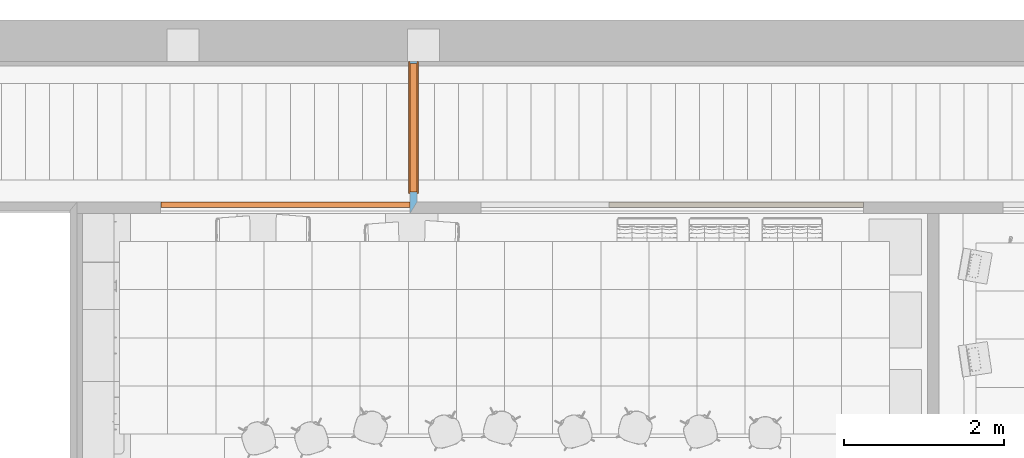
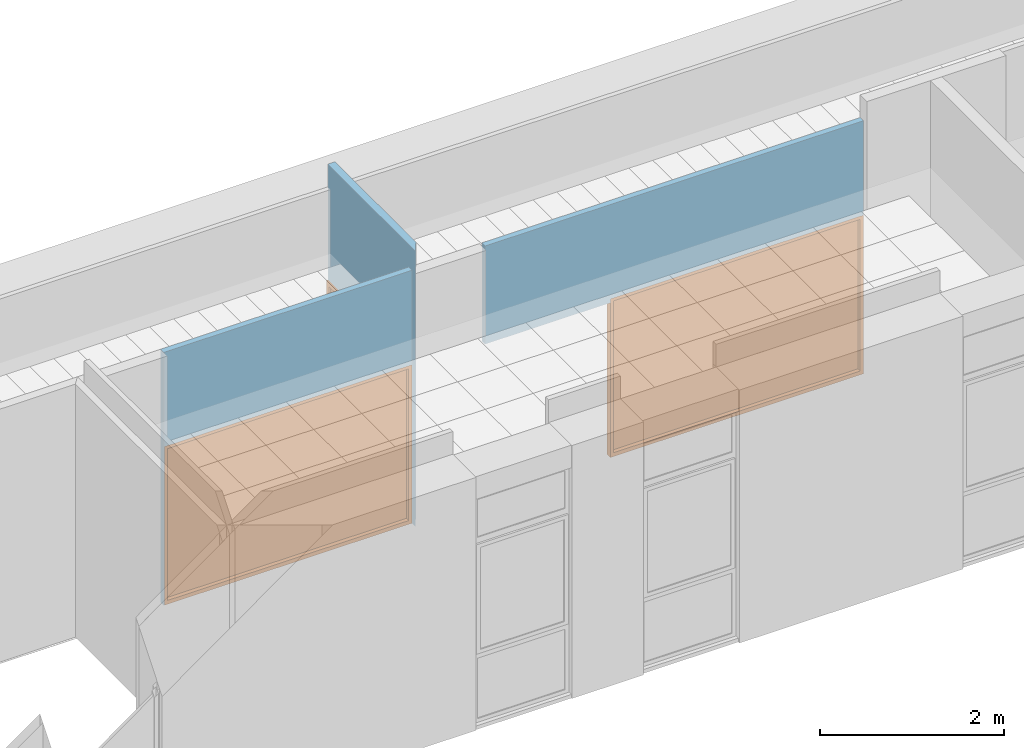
# One storey, part 49 of 60: 3 proxies, 4 openings, plus 3 elements that do not belong to this part.
"""IFC2X3 building model written with IfcOpenShell, lengths in millimetres."""

import ifcopenshell
import ifcopenshell.guid

model = None  # the IFC model being written
_history = None  # IfcOwnerHistory: only IFC2X3 demands one
_inside = {}  # id of a spatial element -> (the spatial element, [elements in it])
_under = {}  # id of a project, library or spatial element -> (it, [spatial elements below it])
_declared = {}  # id of a project -> (the project, [libraries it declares])
_typed = {}  # id of a type object -> (the type object, [elements of that type])
_made_of = {}  # id of a material, layer set ... -> (it, [elements and type objects made of it])


def new_model(schema):
    """Start an empty IFC model of exactly this schema.

    Asked for "IFC4X3", IfcOpenShell would pick the latest addendum, in which some entities
    have other attributes; the version numbers below select the first issue.
    IFC2X3 requires an IfcOwnerHistory on every rooted entity: one is made here for all.
    """
    global model, _history
    if schema == "IFC4X3":
        model = ifcopenshell.file(schema_version=(4, 3, 0, 0))
    else:
        model = ifcopenshell.file(schema=schema)
    _inside.clear()
    _under.clear()
    _declared.clear()
    _typed.clear()
    _made_of.clear()
    _history = None
    if model.schema == "IFC2X3":
        org = make("IfcOrganization", Name="unknown")
        user = make(
            "IfcPersonAndOrganization",
            ThePerson=make("IfcPerson", FamilyName="unknown"),
            TheOrganization=org,
        )
        app = make(
            "IfcApplication",
            ApplicationDeveloper=org,
            Version="unknown",
            ApplicationFullName="unknown",
            ApplicationIdentifier="unknown",
        )
        _history = make(
            "IfcOwnerHistory",
            OwningUser=user,
            OwningApplication=app,
            ChangeAction="ADDED",
            CreationDate=0,
        )
    return model


def make(cls, **values):
    """One entity of the class cls with the attributes given. An attribute that is None is left unset."""
    return model.create_entity(
        cls, **{name: value for name, value in values.items() if value is not None}
    )


def entity(cls, *values):
    """Any entity or typed value of the class cls, its attributes in the order of the schema. None: left unset."""
    e = model.create_entity(cls)
    for i, value in enumerate(values):
        if value is not None:
            e[i] = value
    return e


def rooted(cls, **values):
    """An entity with a GlobalId (a new one), such as an element, a storey or a relation."""
    return make(cls, GlobalId=ifcopenshell.guid.new(), OwnerHistory=_history, **values)


def si_unit(unit_type, name, prefix=None):
    """IfcSIUnit, for example si_unit("LENGTHUNIT", "METRE", prefix="MILLI")."""
    return make("IfcSIUnit", UnitType=unit_type, Prefix=prefix, Name=name)


def converted_unit(unit_type, name, factor, base, dimensions=None, offset=None):
    """IfcConversionBasedUnit, such as the inch: factor (a typed value) times the base unit."""
    return make(
        "IfcConversionBasedUnit"
        if offset is None
        else "IfcConversionBasedUnitWithOffset",
        ConversionOffset=offset,
        Dimensions=None
        if dimensions is None
        else entity("IfcDimensionalExponents", *dimensions),
        UnitType=unit_type,
        Name=name,
        ConversionFactor=make(
            "IfcMeasureWithUnit", ValueComponent=factor, UnitComponent=base
        ),
    )


def derived_unit(unit_type, elements):
    """IfcDerivedUnit: a product of units, each with its exponent."""
    return make(
        "IfcDerivedUnit",
        Elements=[
            make("IfcDerivedUnitElement", Unit=unit, Exponent=power)
            for unit, power in elements
        ],
        UnitType=unit_type,
    )


def money_unit(currency):
    """IfcMonetaryUnit."""
    return make("IfcMonetaryUnit", Currency=currency)


def assignment(units):
    """IfcUnitAssignment: the units of a project."""
    return None if units is None else make("IfcUnitAssignment", Units=units)


def point(xyz):
    """IfcCartesianPoint."""
    return None if xyz is None else make("IfcCartesianPoint", Coordinates=xyz)


def direction(xyz):
    """IfcDirection."""
    return None if xyz is None else make("IfcDirection", DirectionRatios=xyz)


def frame(location, z_axis=None, x_axis=None):
    """IfcAxis2Placement3D, a coordinate frame: its origin and axes. An axis left out is left unset."""
    return make(
        "IfcAxis2Placement3D",
        Location=point(location),
        Axis=direction(z_axis),
        RefDirection=direction(x_axis),
    )


def frame_2d(location, x_axis=None):
    """IfcAxis2Placement2D, a coordinate frame in the plane: its origin and x axis."""
    return make(
        "IfcAxis2Placement2D", Location=point(location), RefDirection=direction(x_axis)
    )


def origin_with_axes():
    """The frame at (0, 0, 0) with the z axis (0, 0, 1) and the x axis (1, 0, 0) written out."""
    return frame((0.0, 0.0, 0.0), z_axis=(0.0, 0.0, 1.0), x_axis=(1.0, 0.0, 0.0))


def origin_2d_with_axis():
    """The frame at (0, 0) in the plane with the x axis (1, 0) written out."""
    return frame_2d((0.0, 0.0), x_axis=(1.0, 0.0))


def place(relative_to, where):
    """IfcLocalPlacement: puts the frame where relative to a parent placement (None: the world)."""
    return make(
        "IfcLocalPlacement", PlacementRelTo=relative_to, RelativePlacement=where
    )


def context(
    kind, dimensions, precision=None, world=None, true_north=None, identifier=None
):
    """IfcGeometricRepresentationContext, for example the 3D "Model" context."""
    return make(
        "IfcGeometricRepresentationContext",
        ContextIdentifier=identifier,
        ContextType=kind,
        CoordinateSpaceDimension=dimensions,
        Precision=precision,
        WorldCoordinateSystem=world,
        TrueNorth=true_north,
    )


def subcontext(parent, identifier, kind, view, scale=None):
    """IfcGeometricRepresentationSubContext, for example "Body" below "Model"."""
    return make(
        "IfcGeometricRepresentationSubContext",
        ContextIdentifier=identifier,
        ContextType=kind,
        ParentContext=parent,
        TargetScale=scale,
        TargetView=view,
    )


def project(units=None, contexts=None):
    """IfcProject with its units and contexts."""
    return rooted(
        "IfcProject",
        Name="project",
        RepresentationContexts=contexts,
        UnitsInContext=assignment(units),
    )


def spatial(cls, under=None, at=None, **own):
    """A site, building, storey or space (cls), placed at a placement, below another one or the project."""
    s = rooted(cls, ObjectPlacement=at, **own)
    if under is not None:
        _under.setdefault(under.id(), (under, []))[1].append(s)
    return s


def polyline(points):
    """IfcPolyline through the points."""
    return make("IfcPolyline", Points=[point(p) for p in points])


def profile(cls, at=None, kind="AREA", **sizes):
    """A parametric profile (cls). Its sizes go by their IFC names, for example OverallWidth=200.0."""
    return make(cls, ProfileType=kind, Position=at, **sizes)


def rectangle(**sizes):
    """IfcRectangleProfileDef."""
    return profile("IfcRectangleProfileDef", **sizes)


def outline(outer, holes=None, kind="AREA"):
    """IfcArbitraryClosedProfileDef: a profile drawn as a closed curve; with holes, ...WithVoids."""
    if holes is None:
        return make("IfcArbitraryClosedProfileDef", ProfileType=kind, OuterCurve=outer)
    return make(
        "IfcArbitraryProfileDefWithVoids",
        ProfileType=kind,
        OuterCurve=outer,
        InnerCurves=holes,
    )


def extrude(swept, where, along, depth):
    """IfcExtrudedAreaSolid: the profile swept, set in the frame where, extruded along a direction by depth."""
    return make(
        "IfcExtrudedAreaSolid",
        SweptArea=swept,
        Position=where,
        ExtrudedDirection=direction(along),
        Depth=depth,
    )


def faces_of(points, faces, orient=None, outer=None):
    """IfcFace entities. A face is a list of loops; a loop is a list of indices into points, from 0.

    orient and outer hold one flag for each loop. By default every Orientation is true, the
    first loop of a face is its IfcFaceOuterBound and the others are IfcFaceBound.
    """
    made = []
    for i, loops in enumerate(faces):
        bounds = []
        for j, loop in enumerate(loops):
            is_outer = j == 0 if outer is None else outer[i][j]
            bounds.append(
                make(
                    "IfcFaceOuterBound" if is_outer else "IfcFaceBound",
                    Bound=make("IfcPolyLoop", Polygon=[points[k] for k in loop]),
                    Orientation=True if orient is None else orient[i][j],
                )
            )
        made.append(make("IfcFace", Bounds=bounds))
    return made


def faceted_brep(points, faces, orient=None, outer=None, voids=None):
    """IfcFacetedBrep: a solid bounded by flat faces; with voids (closed shells), ...WithVoids."""
    shared = [point(p) for p in points]
    hull = make("IfcClosedShell", CfsFaces=faces_of(shared, faces, orient, outer))
    if voids is None:
        return make("IfcFacetedBrep", Outer=hull)
    return make(
        "IfcFacetedBrepWithVoids",
        Outer=hull,
        Voids=[
            make(cls, CfsFaces=faces_of(shared, fs, o, b)) for cls, fs, o, b in voids
        ],
    )


def shape(context_of_items, identifier, shape_type, items):
    """IfcShapeRepresentation: the items that make up one representation, for example the "Body"."""
    return make(
        "IfcShapeRepresentation",
        ContextOfItems=context_of_items,
        RepresentationIdentifier=identifier,
        RepresentationType=shape_type,
        Items=items,
    )


def material(Name=None, Category=None):
    """IfcMaterial."""
    return make("IfcMaterial", Name=Name, Category=Category)


def layer(
    of_material, thickness, ventilated=None, Name=None, Category=None, Priority=None
):
    """IfcMaterialLayer: one layer of a wall or slab, of a material (None: an air gap)."""
    return make(
        "IfcMaterialLayer",
        Material=of_material,
        LayerThickness=thickness,
        IsVentilated=ventilated,
        Name=Name,
        Category=Category,
        Priority=Priority,
    )


def layer_set(layers, Name=None):
    """IfcMaterialLayerSet."""
    return make("IfcMaterialLayerSet", MaterialLayers=layers, LayerSetName=Name)


def layer_usage(for_layer_set, set_direction, sense, offset, extent=None):
    """IfcMaterialLayerSetUsage: how a layer set lies in its element."""
    return make(
        "IfcMaterialLayerSetUsage",
        ForLayerSet=for_layer_set,
        LayerSetDirection=set_direction,
        DirectionSense=sense,
        OffsetFromReferenceLine=offset,
        ReferenceExtent=extent,
    )


def made_of(thing, what):
    """Note that an element or type object is made of a material, layer set ...; save() writes the relation."""
    if what is not None:
        _made_of.setdefault(what.id(), (what, []))[1].append(thing)
    return thing


def type_object(cls, material=None, **own):
    """A type object (cls), such as IfcWallType, which elements share."""
    return made_of(rooted(cls, **own), material)


def element(
    cls,
    number,
    at=None,
    inside=None,
    cuts=None,
    type_object=None,
    material=None,
    context=None,
    identifier="Body",
    shape_type=None,
    held_by="IfcProductDefinitionShape",
    body=None,
    shapes=None,
    **own,
):
    """One element of the class cls, such as IfcWall. Its Tag is "e" and its number.

    at: its placement. inside: the storey or other place that contains it. cuts: it is an
    opening in that element (IfcRelVoidsElement). A single representation is given by context,
    identifier, shape_type and body (its items); several are given by shapes. held_by: the class
    of the entity that holds the representations. save() writes the other relations.
    """
    e = rooted(cls, Tag="e%d" % number, ObjectPlacement=at, **own)
    if body is not None:
        shapes = [shape(context, identifier, shape_type, body)]
    if shapes is not None:
        e.Representation = make(held_by, Representations=shapes)
    if inside is not None:
        _inside.setdefault(inside.id(), (inside, []))[1].append(e)
    if cuts is not None:
        rooted(
            "IfcRelVoidsElement", RelatingBuildingElement=cuts, RelatedOpeningElement=e
        )
    if type_object is not None:
        _typed.setdefault(type_object.id(), (type_object, []))[1].append(e)
    return made_of(e, material)


def fill(opening, filler):
    """IfcRelFillsElement: the door or window that sits in an opening."""
    return rooted(
        "IfcRelFillsElement",
        RelatingOpeningElement=opening,
        RelatedBuildingElement=filler,
    )


def aggregate(whole, parts):
    """IfcRelAggregates: a whole, such as a stair, and the parts it consists of."""
    return rooted("IfcRelAggregates", RelatingObject=whole, RelatedObjects=parts)


def save(model, path):
    """Write the relations noted so far, then the file.

    IfcRelAggregates (storeys below a building ...), IfcRelContainedInSpatialStructure (elements
    in a storey), IfcRelDefinesByType, IfcRelAssociatesMaterial and IfcRelDeclares: one each for
    every whole, place, type object, material and project.
    """
    for whole, parts in _under.values():
        aggregate(whole, parts)
    for where, things in _inside.values():
        rooted(
            "IfcRelContainedInSpatialStructure",
            RelatedElements=things,
            RelatingStructure=where,
        )
    for kind, things in _typed.values():
        rooted("IfcRelDefinesByType", RelatedObjects=things, RelatingType=kind)
    for what, things in _made_of.values():
        rooted("IfcRelAssociatesMaterial", RelatedObjects=things, RelatingMaterial=what)
    for by, libraries in _declared.values():
        rooted("IfcRelDeclares", RelatingContext=by, RelatedDefinitions=libraries)
    model.write(path)


model = new_model("IFC2X3")

# Units and contexts
model_context = context("Model", 3, precision=0.01, world=origin_with_axes(), true_north=direction((0.0, 1.0)))
body_context = subcontext(model_context, "Body", "Model", "MODEL_VIEW")
ifc_project = project(units=[si_unit("LENGTHUNIT", "METRE", prefix="MILLI"), si_unit("AREAUNIT", "SQUARE_METRE"), si_unit("VOLUMEUNIT", "CUBIC_METRE"), converted_unit("PLANEANGLEUNIT", "DEGREE", entity("IfcPlaneAngleMeasure", 0.0174532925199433), si_unit("PLANEANGLEUNIT", "RADIAN"), dimensions=[0, 0, 0, 0, 0, 0, 0]), money_unit("USD"), converted_unit("TIMEUNIT", "Year", entity("IfcTimeMeasure", 31557600.0), si_unit("TIMEUNIT", "SECOND"), dimensions=[0, 0, 1, 0, 0, 0, 0]), si_unit("MASSUNIT", "GRAM", prefix="KILO"), si_unit("THERMODYNAMICTEMPERATUREUNIT", "DEGREE_CELSIUS"), si_unit("LUMINOUSINTENSITYUNIT", "LUMEN"), si_unit("ENERGYUNIT", "JOULE", prefix="MEGA"), derived_unit("THERMALCONDUCTANCEUNIT", [(si_unit("POWERUNIT", "WATT"), 1), (si_unit("LENGTHUNIT", "METRE"), -1), (si_unit("THERMODYNAMICTEMPERATUREUNIT", "KELVIN"), -1)]), derived_unit("SPECIFICHEATCAPACITYUNIT", [(si_unit("ENERGYUNIT", "JOULE"), 1), (si_unit("MASSUNIT", "GRAM", prefix="KILO"), -1), (si_unit("THERMODYNAMICTEMPERATUREUNIT", "KELVIN"), -1)]), derived_unit("MASSDENSITYUNIT", [(si_unit("MASSUNIT", "GRAM", prefix="KILO"), 1), (si_unit("VOLUMEUNIT", "CUBIC_METRE"), -1)])], contexts=[model_context])

# Site, building, storey
site_placement = place(None, origin_with_axes())
site = spatial("IfcSite", under=ifc_project, at=site_placement, Name="Sitio", CompositionType="ELEMENT")
building_placement = place(site_placement, origin_with_axes())
building = spatial("IfcBuilding", under=site, at=building_placement, Name="Construcción", CompositionType="ELEMENT")
storey_placement = place(building_placement, frame((0.0, 0.0, 3650.0), z_axis=(0.0, 0.0, 1.0), x_axis=(1.0, 0.0, 0.0)))
storey = spatial("IfcBuildingStorey", under=building, at=storey_placement, Name="PLANTA 2ª", CompositionType="ELEMENT", Elevation=3650.0)

# Wall, openings, proxy
ifc_material_1 = material(Name="Panel de Yeso Laminado")
ifc_layer_1 = layer(ifc_material_1, 5.0, ventilated="UNKNOWN")
ifc_material_2 = material(Name="ARQ_AI033_Aillament_Llana_De_Roca")
ifc_layer_2 = layer(ifc_material_2, 60.0, ventilated="UNKNOWN")
ifc_layer_3 = layer(ifc_material_1, 5.0, ventilated="UNKNOWN")
ifc_layer_set_1 = layer_set([ifc_layer_1, ifc_layer_2, ifc_layer_3], Name="CR- MAMPARA")
ifc_layer_usage_1 = layer_usage(ifc_layer_set_1, "AXIS2", "POSITIVE", 0.0)
wall_type_1 = type_object("IfcWallType", Name="CR- MAMPARA 70", PredefinedType="NOTDEFINED")
wall_1_placement = place(storey_placement, frame((-13225.05292641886, 2109.554870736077, 0.0), z_axis=(0.0, 0.0, 1.0), x_axis=(-1.0, 0.0, 0.0)))
wall_1 = element("IfcWallStandardCase", 1, at=wall_1_placement, inside=storey, type_object=wall_type_1, material=ifc_layer_usage_1, Name="MS-214", context=body_context, shape_type="SweptSolid", body=[
    extrude(outline(polyline([(0.0, 0.0), (4737.123026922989, 0.0), (4737.123026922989, 69.99999999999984), (0.0, 69.99999999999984), (0.0, 0.0)])), origin_with_axes(), (0.0, 0.0, 1.0), 3350.0),
])
opening_1_placement = place(wall_1_placement, frame((1584.988959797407, 0.0, 0.0), z_axis=(0.0, 0.0, 1.0), x_axis=(1.0, 0.0, 0.0)))
opening_1 = element("IfcOpeningElement", 2, at=opening_1_placement, cuts=wall_1, Name="M-13", context=body_context, shape_type="SweptSolid", body=[
    extrude(rectangle(XDim=3169.977919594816, YDim=2100.0, at=origin_2d_with_axis()), frame((0.0, -69.99999999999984, 1050.0), z_axis=(0.0, 1.0, 0.0), x_axis=(-1.0, 0.0, 0.0)), (0.0, 0.0, 1.0), 210.0),
])
opening_2_placement = place(wall_1_placement, frame((3969.977919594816, 0.0, 0.0), z_axis=(0.0, 0.0, 1.0), x_axis=(1.0, 0.0, 0.0)))
element("IfcOpeningElement", 3, at=opening_2_placement, cuts=wall_1, Name="PM-4", context=body_context, shape_type="SweptSolid", body=[
    extrude(rectangle(XDim=1600.000000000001, YDim=2050.0, at=origin_2d_with_axis()), frame((0.0, -69.99999999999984, 1025.0), z_axis=(0.0, 1.0, 0.0), x_axis=(1.0, 0.0, 0.0)), (0.0, 0.0, 1.0), 210.0),
])
building_element_proxy_type_1 = type_object("IfcBuildingElementProxyType", Name="Ventana Escaparate 27", PredefinedType="NOTDEFINED")
proxy_1_placement = place(opening_1_placement, frame((1584.988959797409, 0.0, 0.0), z_axis=(0.0, 0.0, 1.0), x_axis=(-1.0, 0.0, 0.0)))
proxy_1 = element("IfcBuildingElementProxy", 4, at=proxy_1_placement, inside=storey, type_object=building_element_proxy_type_1, Name="M-13", context=body_context, shape_type="Brep", body=[
    faceted_brep([(0.0, 0.0, 2060.0), (0.0, 0.0, 49.99999999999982), (0.0, -69.9999999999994, 49.99999999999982), (0.0, -69.99999999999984, 2060.0), (40.0000000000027, 0.0, 2060.0), (40.0000000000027, 0.0, 49.99999999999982), (40.0000000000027, -69.99999999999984, 49.99999999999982), (40.0000000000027, -69.99999999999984, 2060.0)], [[[0, 1, 2, 3]], [[0, 4, 5, 1]], [[1, 5, 6, 2]], [[3, 2, 6, 7]], [[4, 0, 3, 7]], [[5, 4, 7, 6]]]),
    faceted_brep([(3169.977919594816, 0.0, 49.99999999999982), (3169.977919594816, 0.0, 2060.0), (3169.977919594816, -70.00000000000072, 2060.0), (3169.977919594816, -70.00000000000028, 49.99999999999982), (3129.977919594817, 0.0, 49.99999999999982), (3129.977919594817, 0.0, 2060.0), (3129.977919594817, -70.00000000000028, 2060.0), (3129.977919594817, -70.00000000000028, 49.99999999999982)], [[[0, 1, 2, 3]], [[0, 4, 5, 1]], [[1, 5, 6, 2]], [[3, 2, 6, 7]], [[4, 0, 3, 7]], [[5, 4, 7, 6]]]),
    faceted_brep([(3169.977919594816, 0.0, 2100.0), (0.0, 0.0, 2100.0), (0.0, -69.99999999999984, 2100.0), (3169.977919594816, -70.00000000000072, 2100.0), (3169.977919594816, 0.0, 2060.0), (3129.977919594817, 0.0, 2060.0), (40.0000000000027, 0.0, 2060.0), (0.0, 0.0, 2060.0), (0.0, -69.99999999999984, 2060.0), (40.0000000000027, -69.99999999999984, 2060.0), (3129.977919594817, -70.00000000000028, 2060.0), (3169.977919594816, -70.00000000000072, 2060.0)], [[[0, 1, 2, 3]], [[0, 4, 5, 6, 7, 1]], [[1, 7, 8, 2]], [[3, 2, 8, 9, 10, 11]], [[4, 0, 3, 11]], [[5, 4, 11, 10]], [[6, 5, 10, 9]], [[7, 6, 9, 8]]]),
    faceted_brep([(3169.977919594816, 0.0, 49.99999999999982), (3129.977919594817, 0.0, 49.99999999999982), (3129.977919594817, -70.00000000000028, 49.99999999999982), (3169.977919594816, -70.00000000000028, 49.99999999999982), (3169.977919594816, 0.0, 0.0), (0.0, 0.0, 0.0), (0.0, 0.0, 49.99999999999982), (40.0000000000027, 0.0, 49.99999999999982), (40.0000000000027, -69.99999999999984, 49.99999999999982), (0.0, -69.9999999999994, 49.99999999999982), (0.0, -69.9999999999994, 0.0), (3169.977919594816, -70.00000000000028, 0.0)], [[[0, 1, 2, 3]], [[0, 4, 5, 6, 7, 1]], [[1, 7, 8, 2]], [[3, 2, 8, 9, 10, 11]], [[4, 0, 3, 11]], [[5, 4, 11, 10]], [[6, 5, 10, 9]], [[7, 6, 9, 8]]]),
    faceted_brep([(40.0000000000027, -9.999999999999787, 49.99999999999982), (3129.977919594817, -10.00000000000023, 49.99999999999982), (3129.977919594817, -20.00000000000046, 49.99999999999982), (40.0000000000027, -19.99999999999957, 49.99999999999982), (40.0000000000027, -9.999999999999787, 2060.0), (3129.977919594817, -10.00000000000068, 2060.0), (3129.977919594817, -20.00000000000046, 2060.0), (40.0000000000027, -19.99999999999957, 2060.0)], [[[0, 1, 2, 3]], [[0, 4, 5, 1]], [[1, 5, 6, 2]], [[3, 2, 6, 7]], [[4, 0, 3, 7]], [[5, 4, 7, 6]]]),
])
fill(opening_1, proxy_1)

# Wall, opening, proxy
ifc_layer_usage_2 = layer_usage(ifc_layer_set_1, "AXIS2", "POSITIVE", 0.0)
wall_2_placement = place(storey_placement, frame((-18790.28549374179, 2109.554870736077, 0.0), z_axis=(0.0, 0.0, 1.0), x_axis=(-1.0, 0.0, 0.0)))
wall_2 = element("IfcWallStandardCase", 5, at=wall_2_placement, inside=storey, type_object=wall_type_1, material=ifc_layer_usage_2, Name="MS-214", context=body_context, shape_type="SweptSolid", body=[
    extrude(outline(polyline([(89.99999999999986, 0.0), (3196.77889602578, 0.0), (3196.77889602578, 69.99999999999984), (89.99999999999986, 69.99999999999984), (89.99999999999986, 0.0)])), origin_with_axes(), (0.0, 0.0, 1.0), 3350.0),
])
opening_3_placement = place(wall_2_placement, frame((1640.0, 0.0, 0.0), z_axis=(0.0, 0.0, 1.0), x_axis=(1.0, 0.0, 0.0)))
opening_3 = element("IfcOpeningElement", 6, at=opening_3_placement, cuts=wall_2, Name="M-12", context=body_context, shape_type="SweptSolid", body=[
    extrude(rectangle(XDim=3100.000000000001, YDim=2100.0, at=origin_2d_with_axis()), frame((0.0, -69.99999999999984, 1050.0), z_axis=(0.0, 1.0, 0.0), x_axis=(-1.0, 0.0, 0.0)), (0.0, 0.0, 1.0), 210.0),
])
proxy_2_placement = place(opening_3_placement, frame((1550.000000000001, 0.0, 0.0), z_axis=(0.0, 0.0, 1.0), x_axis=(-1.0, 0.0, 0.0)))
proxy_2 = element("IfcBuildingElementProxy", 7, at=proxy_2_placement, inside=storey, type_object=building_element_proxy_type_1, Name="M-12", context=body_context, shape_type="Brep", body=[
    faceted_brep([(0.0, 0.0, 2060.0), (0.0, 0.0, 49.99999999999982), (0.0, -69.99999999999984, 49.99999999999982), (0.0, -69.99999999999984, 2060.0), (39.99999999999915, 0.0, 2060.0), (39.99999999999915, 0.0, 49.99999999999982), (39.99999999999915, -69.99999999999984, 49.99999999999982), (39.99999999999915, -69.99999999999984, 2060.0)], [[[0, 1, 2, 3]], [[0, 4, 5, 1]], [[1, 5, 6, 2]], [[3, 2, 6, 7]], [[4, 0, 3, 7]], [[5, 4, 7, 6]]]),
    faceted_brep([(3100.000000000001, 0.0, 49.99999999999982), (3100.000000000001, 0.0, 2060.0), (3100.000000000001, -70.00000000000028, 2060.0), (3100.000000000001, -70.00000000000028, 49.99999999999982), (3060.000000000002, 0.0, 49.99999999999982), (3060.000000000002, 0.0, 2060.0), (3060.000000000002, -70.00000000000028, 2060.0), (3060.000000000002, -70.00000000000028, 49.99999999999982)], [[[0, 1, 2, 3]], [[0, 4, 5, 1]], [[1, 5, 6, 2]], [[3, 2, 6, 7]], [[4, 0, 3, 7]], [[5, 4, 7, 6]]]),
    faceted_brep([(3100.000000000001, 0.0, 2100.0), (0.0, 0.0, 2100.0), (0.0, -69.99999999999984, 2100.0), (3100.000000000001, -70.00000000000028, 2100.0), (3100.000000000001, 0.0, 2060.0), (3060.000000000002, 0.0, 2060.0), (39.99999999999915, 0.0, 2060.0), (0.0, 0.0, 2060.0), (0.0, -69.99999999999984, 2060.0), (39.99999999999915, -69.99999999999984, 2060.0), (3060.000000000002, -70.00000000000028, 2060.0), (3100.000000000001, -70.00000000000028, 2060.0)], [[[0, 1, 2, 3]], [[0, 4, 5, 6, 7, 1]], [[1, 7, 8, 2]], [[3, 2, 8, 9, 10, 11]], [[4, 0, 3, 11]], [[5, 4, 11, 10]], [[6, 5, 10, 9]], [[7, 6, 9, 8]]]),
    faceted_brep([(3100.000000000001, 0.0, 49.99999999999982), (3060.000000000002, 0.0, 49.99999999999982), (3060.000000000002, -70.00000000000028, 49.99999999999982), (3100.000000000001, -70.00000000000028, 49.99999999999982), (3100.000000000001, 0.0, 0.0), (0.0, 0.0, 0.0), (0.0, 0.0, 49.99999999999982), (39.99999999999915, 0.0, 49.99999999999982), (39.99999999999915, -69.99999999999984, 49.99999999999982), (0.0, -69.99999999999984, 49.99999999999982), (0.0, -69.99999999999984, 0.0), (3100.000000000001, -70.00000000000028, 0.0)], [[[0, 1, 2, 3]], [[0, 4, 5, 6, 7, 1]], [[1, 7, 8, 2]], [[3, 2, 8, 9, 10, 11]], [[4, 0, 3, 11]], [[5, 4, 11, 10]], [[6, 5, 10, 9]], [[7, 6, 9, 8]]]),
    faceted_brep([(39.99999999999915, -9.999999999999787, 49.99999999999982), (3060.000000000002, -10.00000000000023, 49.99999999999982), (3060.000000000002, -20.00000000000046, 49.99999999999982), (39.99999999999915, -19.99999999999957, 49.99999999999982), (39.99999999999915, -9.999999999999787, 2060.0), (3060.000000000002, -10.00000000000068, 2060.0), (3060.000000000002, -20.00000000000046, 2060.0), (39.99999999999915, -19.99999999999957, 2060.0)], [[[0, 1, 2, 3]], [[0, 4, 5, 1]], [[1, 5, 6, 2]], [[3, 2, 6, 7]], [[4, 0, 3, 7]], [[5, 4, 7, 6]]]),
])
fill(opening_3, proxy_2)

ifc_material_3 = material(Name="ARQ_AM246_Arrebossat_De_Guix")
ifc_layer_4 = layer(ifc_material_3, 10.0, ventilated="UNKNOWN")
ifc_material_4 = material(Name="ARQ_CE217_Gero")
ifc_layer_5 = layer(ifc_material_4, 70.0, ventilated="UNKNOWN")
ifc_layer_6 = layer(ifc_material_3, 10.0, ventilated="UNKNOWN")
ifc_layer_set_2 = layer_set([ifc_layer_4, ifc_layer_5, ifc_layer_6], Name="CR Enva Totxaneta")
ifc_layer_usage_3 = layer_usage(ifc_layer_set_2, "AXIS2", "POSITIVE", 0.0)
wall_type_2 = type_object("IfcWallType", Name="CR Enva Totxaneta 90", PredefinedType="NOTDEFINED")
wall_3_placement = place(storey_placement, frame((-18790.28549374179, 2109.554870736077, 0.0), z_axis=(0.0, 0.0, 1.0), x_axis=(0.0, 1.0, 0.0)))
wall_3 = element("IfcWallStandardCase", 8, at=wall_3_placement, inside=storey, type_object=wall_type_2, material=ifc_layer_usage_3, Name="MS-203", context=body_context, shape_type="SweptSolid", body=[
    extrude(outline(polyline([(0.0, 0.0), (1753.899315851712, 0.0), (1753.899315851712, 89.99999999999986), (-145.9999999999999, 89.99999999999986), (0.0, 0.0)])), origin_with_axes(), (0.0, 0.0, 1.0), 3650.0),
])
opening_4_placement = place(wall_3_placement, frame((927.7911143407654, 0.0, 0.0), z_axis=(0.0, 0.0, 1.0), x_axis=(1.0, 0.0, 0.0)))
opening_4 = element("IfcOpeningElement", 9, at=opening_4_placement, cuts=wall_3, Name="PF-30D", context=body_context, shape_type="SweptSolid", body=[
    extrude(rectangle(XDim=1600.0, YDim=2100.0, at=origin_2d_with_axis()), frame((0.0, 89.99999999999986, 1049.999999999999), z_axis=(0.0, 1.0, 0.0), x_axis=(1.0, 0.0, 0.0)), (0.0, 0.0, -1.0), 270.0),
    extrude(rectangle(XDim=1644.0, YDim=2122.0, at=origin_2d_with_axis()), frame((0.0, 89.9999999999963, 1061.0), z_axis=(0.0, 1.0, 0.0), x_axis=(1.0, 0.0, 0.0)), (0.0, 0.0, 1.0), 90.0),
    extrude(rectangle(XDim=1644.0, YDim=2122.0, at=origin_2d_with_axis()), frame((0.0, 0.0, 1061.0), z_axis=(0.0, -1.0, 0.0), x_axis=(1.0, 0.0, 0.0)), (0.0, 0.0, 1.0), 90.0),
])
building_element_proxy_type_2 = type_object("IfcBuildingElementProxyType", Name="Puerta Doble 27", PredefinedType="NOTDEFINED")
proxy_3_placement = place(opening_4_placement, frame((799.9999999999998, 0.0, 0.0), z_axis=(0.0, 0.0, 1.0), x_axis=(-1.0, 0.0, 0.0)))
proxy_3 = element("IfcBuildingElementProxy", 10, at=proxy_3_placement, inside=storey, type_object=building_element_proxy_type_2, Name="PF-30D", context=body_context, shape_type="Brep", body=[
    faceted_brep([(1622.0, -109.0000000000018, 0.0), (1572.0, -109.0000000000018, 0.0), (1572.0, -89.99999999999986, 0.0), (1622.0, -89.99999999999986, 0.0), (1622.0, -109.0000000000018, 2122.0), (1572.0, -109.0000000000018, 2072.0), (1572.0, -89.99999999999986, 2072.0), (1622.0, -89.99999999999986, 2122.0)], [[[0, 1, 2, 3]], [[0, 4, 5, 1]], [[1, 5, 6, 2]], [[3, 2, 6, 7]], [[4, 0, 3, 7]], [[5, 4, 7, 6]]]),
    faceted_brep([(-22.00000000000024, -108.9999999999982, 2122.0), (27.99999999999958, -108.9999999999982, 2072.0), (27.99999999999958, -89.9999999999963, 2072.0), (-22.00000000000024, -89.9999999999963, 2122.0), (-22.00000000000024, -108.9999999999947, 0.0), (27.99999999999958, -108.9999999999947, 0.0), (27.99999999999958, -89.9999999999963, 0.0), (-22.00000000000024, -89.9999999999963, 0.0)], [[[0, 1, 2, 3]], [[0, 4, 5, 1]], [[1, 5, 6, 2]], [[3, 2, 6, 7]], [[4, 0, 3, 7]], [[5, 4, 7, 6]]]),
    faceted_brep([(1622.0, -109.0000000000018, 2122.0), (1572.0, -109.0000000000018, 2072.0), (1572.0, -89.99999999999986, 2072.0), (1622.0, -89.99999999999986, 2122.0), (-22.00000000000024, -108.9999999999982, 2122.0), (27.99999999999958, -108.9999999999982, 2072.0), (27.99999999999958, -89.9999999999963, 2072.0), (-22.00000000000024, -89.9999999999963, 2122.0)], [[[0, 1, 2, 3]], [[0, 4, 5, 1]], [[1, 5, 6, 2]], [[3, 2, 6, 7]], [[4, 0, 3, 7]], [[5, 4, 7, 6]]]),
    faceted_brep([(1622.0, 18.99999999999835, 0.0), (1622.0, 0.0, 0.0), (1572.0, 0.0, 0.0), (1572.0, 18.99999999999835, 0.0), (1622.0, 18.99999999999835, 2122.0), (1622.0, 0.0, 2122.0), (1572.0, 0.0, 2072.0), (1572.0, 18.99999999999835, 2072.0)], [[[0, 1, 2, 3]], [[4, 5, 1, 0]], [[1, 5, 6, 2]], [[3, 2, 6, 7]], [[0, 3, 7, 4]], [[7, 6, 5, 4]]]),
    faceted_brep([(-22.00000000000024, 19.0000000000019, 2122.0), (-22.00000000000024, 0.0, 2122.0), (27.99999999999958, 0.0, 2072.0), (27.99999999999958, 19.0000000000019, 2072.0), (-22.00000000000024, 19.00000000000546, 0.0), (-22.00000000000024, 0.0, 0.0), (27.99999999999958, 0.0, 0.0), (27.99999999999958, 19.00000000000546, 0.0)], [[[0, 1, 2, 3]], [[4, 5, 1, 0]], [[1, 5, 6, 2]], [[3, 2, 6, 7]], [[0, 3, 7, 4]], [[7, 6, 5, 4]]]),
    faceted_brep([(1622.0, 18.99999999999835, 2122.0), (1622.0, 0.0, 2122.0), (1572.0, 0.0, 2072.0), (1572.0, 18.99999999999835, 2072.0), (-22.00000000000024, 19.0000000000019, 2122.0), (-22.00000000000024, 0.0, 2122.0), (27.99999999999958, 0.0, 2072.0), (27.99999999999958, 19.0000000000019, 2072.0)], [[[0, 1, 2, 3]], [[4, 5, 1, 0]], [[1, 5, 6, 2]], [[3, 2, 6, 7]], [[0, 3, 7, 4]], [[7, 6, 5, 4]]]),
    faceted_brep([(1560.0, -39.99999999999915, 0.0), (1560.0, -89.99999999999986, 0.0), (1560.0, -89.99999999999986, 2060.0), (1560.0, -39.99999999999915, 2060.0), (1572.0, -39.99999999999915, 0.0), (1572.0, 0.0, 0.0), (1600.0, 0.0, 0.0), (1600.0, -89.99999999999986, 0.0), (1600.0, -89.99999999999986, 2060.0), (1572.0, -39.99999999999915, 2060.0), (1600.0, 0.0, 2060.0), (1572.0, 0.0, 2060.0)], [[[0, 1, 2, 3]], [[4, 5, 6, 7, 1, 0]], [[1, 7, 8, 2]], [[9, 3, 2, 8, 10, 11]], [[9, 4, 0, 3]], [[11, 5, 4, 9]], [[11, 10, 6, 5]], [[6, 10, 8, 7]]]),
    faceted_brep([(27.99999999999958, -39.99999999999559, 2060.0), (27.99999999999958, 0.0, 2060.0), (0.0, 0.0, 2060.0), (0.0, -89.9999999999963, 2060.0), (40.00000000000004, -89.9999999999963, 2060.0), (40.00000000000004, -39.99999999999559, 2060.0), (27.99999999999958, -39.99999999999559, 0.0), (27.99999999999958, 0.0, 0.0), (0.0, 0.0, 0.0), (0.0, -89.9999999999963, 0.0), (40.00000000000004, -89.9999999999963, 0.0), (40.00000000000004, -39.99999999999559, 0.0)], [[[0, 1, 2, 3, 4, 5]], [[0, 6, 7, 1]], [[7, 8, 2, 1]], [[2, 8, 9, 3]], [[3, 9, 10, 4]], [[5, 4, 10, 11]], [[5, 11, 6, 0]], [[6, 11, 10, 9, 8, 7]]]),
    faceted_brep([(1572.0, 0.0, 2072.0), (27.99999999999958, 0.0, 2072.0), (27.99999999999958, 0.0, 2060.0), (0.0, 0.0, 2060.0), (0.0, 0.0, 2100.0), (1600.0, 0.0, 2100.0), (1600.0, 0.0, 2060.0), (1572.0, 0.0, 2060.0), (1572.0, -39.99999999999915, 2072.0), (27.99999999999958, -39.99999999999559, 2072.0), (27.99999999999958, -39.99999999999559, 2060.0), (40.00000000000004, -39.99999999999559, 2060.0), (40.00000000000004, -89.9999999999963, 2060.0), (0.0, -89.9999999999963, 2060.0), (0.0, -89.9999999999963, 2100.0), (1600.0, -89.99999999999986, 2100.0), (1600.0, -89.99999999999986, 2060.0), (1572.0, -39.99999999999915, 2060.0), (1560.0, -89.99999999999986, 2060.0), (1560.0, -39.99999999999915, 2060.0)], [[[0, 1, 2, 3, 4, 5, 6, 7]], [[0, 8, 9, 1]], [[1, 9, 10, 2]], [[10, 11, 12, 13, 3, 2]], [[4, 3, 13, 14]], [[5, 4, 14, 15]], [[6, 5, 15, 16]], [[17, 7, 6, 16, 18, 19]], [[7, 17, 8, 0]], [[10, 9, 8, 17, 19, 11]], [[19, 18, 12, 11]], [[12, 18, 16, 15, 14, 13]]]),
    faceted_brep([(27.99999999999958, 0.0, 0.0), (799.9999999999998, 0.0, 0.0), (799.9999999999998, -39.99999999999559, 0.0), (27.99999999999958, -39.99999999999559, 0.0), (27.99999999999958, 0.0, 2072.0), (799.9999999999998, 0.0, 2072.0), (799.9999999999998, -39.99999999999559, 2072.0), (27.99999999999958, -39.99999999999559, 2072.0)], [[[0, 1, 2, 3]], [[0, 4, 5, 1]], [[1, 5, 6, 2]], [[3, 2, 6, 7]], [[4, 0, 3, 7]], [[5, 4, 7, 6]]]),
    faceted_brep([(1572.0, 0.0, 0.0), (1572.0, -39.99999999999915, 0.0), (799.9999999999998, -39.99999999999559, 0.0), (799.9999999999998, 0.0, 0.0), (1572.0, 0.0, 2072.0), (1572.0, -39.99999999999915, 2072.0), (799.9999999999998, -39.99999999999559, 2072.0), (799.9999999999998, 0.0, 2072.0)], [[[0, 1, 2, 3]], [[4, 5, 1, 0]], [[1, 5, 6, 2]], [[3, 2, 6, 7]], [[0, 3, 7, 4]], [[7, 6, 5, 4]]]),
])
fill(opening_4, proxy_3)

save(model, "model.ifc")
